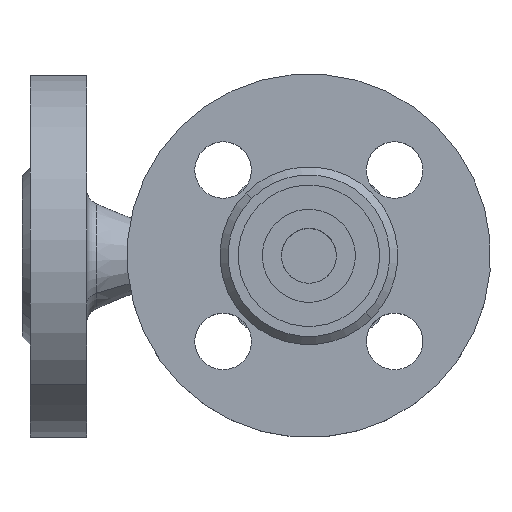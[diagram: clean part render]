
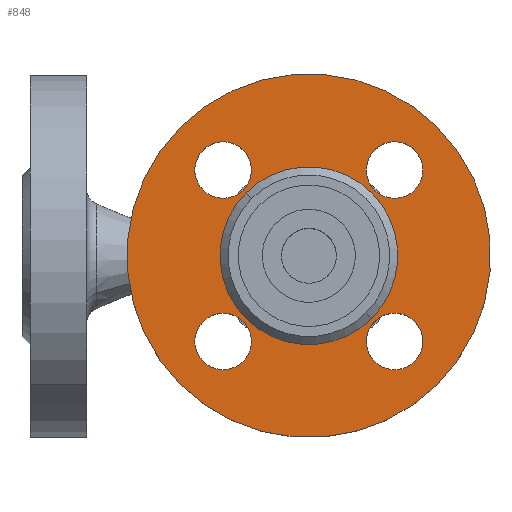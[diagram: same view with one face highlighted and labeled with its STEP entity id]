
A CAD part, top view. The second image highlights one B-rep face of the part: STEP entity #848.
In plain terms, the highlighted planar face has unit normal (0, 0, 1) as drawn and (0, -1, 0) by its records, which use the part's own axes.
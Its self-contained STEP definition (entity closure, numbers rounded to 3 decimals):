
#96 = ORIENTED_EDGE ( 'NONE', *, *, #13421, .T. ) ;
#605 = EDGE_LOOP ( 'NONE', ( #96, #12905 ) ) ;
#848 = ADVANCED_FACE ( 'NONE', ( #7817, #7822, #7823, #7824, #7825, #7826 ), #7827, .F. ) ;
#968 = CARTESIAN_POINT ( 'NONE',  ( -22., 2., 0. ) ) ;
#2203 = VERTEX_POINT ( 'NONE', #9198 ) ;
#2419 = EDGE_CURVE ( 'NONE', #6025, #6239, #9314, .T. ) ;
#2754 = VERTEX_POINT ( 'NONE', #9503 ) ;
#2892 = CIRCLE ( 'NONE', #2893, 22. ) ;
#2893 = AXIS2_PLACEMENT_3D ( 'NONE', #2894, #2895, #2896 ) ;
#2894 = CARTESIAN_POINT ( 'NONE',  ( 0., 2., 0. ) ) ;
#2895 = DIRECTION ( 'NONE',  ( 0., 1., 0. ) ) ;
#2896 = DIRECTION ( 'NONE',  ( -1., 0., 0. ) ) ;
#2974 = VERTEX_POINT ( 'NONE', #10662 ) ;
#2991 = CIRCLE ( 'NONE', #2992, 7. ) ;
#2992 = AXIS2_PLACEMENT_3D ( 'NONE', #2995, #2996, #2997 ) ;
#2995 = CARTESIAN_POINT ( 'NONE',  ( -30., 2., 0. ) ) ;
#2996 = DIRECTION ( 'NONE',  ( 0., 1., 0. ) ) ;
#2997 = DIRECTION ( 'NONE',  ( -1., 0., 0. ) ) ;
#3151 = CARTESIAN_POINT ( 'NONE',  ( -37., 2., 0. ) ) ;
#3195 = EDGE_CURVE ( 'NONE', #2974, #2754, #10781, .T. ) ;
#3318 = CARTESIAN_POINT ( 'NONE',  ( -23., 2., 0. ) ) ;
#3357 = CARTESIAN_POINT ( 'NONE',  ( 22., 2., 0. ) ) ;
#3431 = CIRCLE ( 'NONE', #3432, 7. ) ;
#3432 = AXIS2_PLACEMENT_3D ( 'NONE', #3433, #3434, #3435 ) ;
#3433 = CARTESIAN_POINT ( 'NONE',  ( -30., 2., 0. ) ) ;
#3434 = DIRECTION ( 'NONE',  ( 0., 1., 0. ) ) ;
#3435 = DIRECTION ( 'NONE',  ( -1., 0., 0. ) ) ;
#4393 = EDGE_CURVE ( 'NONE', #10509, #4490, #2892, .T. ) ;
#4490 = VERTEX_POINT ( 'NONE', #3357 ) ;
#5687 = VERTEX_POINT ( 'NONE', #8411 ) ;
#5913 = VERTEX_POINT ( 'NONE', #8565 ) ;
#6025 = VERTEX_POINT ( 'NONE', #8674 ) ;
#6135 = EDGE_CURVE ( 'NONE', #5913, #5687, #8764, .T. ) ;
#6239 = VERTEX_POINT ( 'NONE', #8811 ) ;
#6463 = EDGE_CURVE ( 'NONE', #6239, #6025, #9142, .T. ) ;
#6868 = VERTEX_POINT ( 'NONE', #9388 ) ;
#6991 = EDGE_CURVE ( 'NONE', #6868, #2203, #9448, .T. ) ;
#7151 = EDGE_LOOP ( 'NONE', ( #11103, #10583 ) ) ;
#7392 = ORIENTED_EDGE ( 'NONE', *, *, #6991, .T. ) ;
#7817 = FACE_BOUND ( 'NONE', #605, .T. ) ;
#7822 = FACE_BOUND ( 'NONE', #12667, .T. ) ;
#7823 = FACE_BOUND ( 'NONE', #10402, .T. ) ;
#7824 = FACE_BOUND ( 'NONE', #8780, .T. ) ;
#7825 = FACE_OUTER_BOUND ( 'NONE', #7151, .T. ) ;
#7826 = FACE_BOUND ( 'NONE', #10351, .T. ) ;
#7827 = PLANE ( 'NONE',  #7828 ) ;
#7828 = AXIS2_PLACEMENT_3D ( 'NONE', #7829, #7830, #7831 ) ;
#7829 = CARTESIAN_POINT ( 'NONE',  ( 22., 2., 0. ) ) ;
#7830 = DIRECTION ( 'NONE',  ( 0., 1., 0. ) ) ;
#7831 = DIRECTION ( 'NONE',  ( -1., 0., 0. ) ) ;
#7915 = EDGE_CURVE ( 'NONE', #2203, #6868, #11146, .T. ) ;
#8277 = ORIENTED_EDGE ( 'NONE', *, *, #7915, .T. ) ;
#8411 = CARTESIAN_POINT ( 'NONE',  ( -7., 2., 30. ) ) ;
#8565 = CARTESIAN_POINT ( 'NONE',  ( 7., 2., 30. ) ) ;
#8636 = EDGE_CURVE ( 'NONE', #4490, #10509, #12232, .T. ) ;
#8674 = CARTESIAN_POINT ( 'NONE',  ( 45., 2., 0. ) ) ;
#8764 = CIRCLE ( 'NONE', #8765, 7. ) ;
#8765 = AXIS2_PLACEMENT_3D ( 'NONE', #8766, #8767, #8768 ) ;
#8766 = CARTESIAN_POINT ( 'NONE',  ( 0., 2., 30. ) ) ;
#8767 = DIRECTION ( 'NONE',  ( 0., 1., 0. ) ) ;
#8768 = DIRECTION ( 'NONE',  ( -1., 0., 0. ) ) ;
#8780 = EDGE_LOOP ( 'NONE', ( #8277, #7392 ) ) ;
#8811 = CARTESIAN_POINT ( 'NONE',  ( -45., 2., 0. ) ) ;
#9023 = ORIENTED_EDGE ( 'NONE', *, *, #6135, .T. ) ;
#9142 = CIRCLE ( 'NONE', #9143, 45. ) ;
#9143 = AXIS2_PLACEMENT_3D ( 'NONE', #9144, #9145, #9146 ) ;
#9144 = CARTESIAN_POINT ( 'NONE',  ( 0., 2., 0. ) ) ;
#9145 = DIRECTION ( 'NONE',  ( 0., 1., 0. ) ) ;
#9146 = DIRECTION ( 'NONE',  ( -1., 0., 0. ) ) ;
#9198 = CARTESIAN_POINT ( 'NONE',  ( 23., 2., 0. ) ) ;
#9314 = CIRCLE ( 'NONE', #9315, 45. ) ;
#9315 = AXIS2_PLACEMENT_3D ( 'NONE', #9316, #9317, #9318 ) ;
#9316 = CARTESIAN_POINT ( 'NONE',  ( 0., 2., 0. ) ) ;
#9317 = DIRECTION ( 'NONE',  ( 0., 1., 0. ) ) ;
#9318 = DIRECTION ( 'NONE',  ( -1., 0., 0. ) ) ;
#9331 = ORIENTED_EDGE ( 'NONE', *, *, #8636, .T. ) ;
#9388 = CARTESIAN_POINT ( 'NONE',  ( 37., 2., 0. ) ) ;
#9448 = CIRCLE ( 'NONE', #9449, 7. ) ;
#9449 = AXIS2_PLACEMENT_3D ( 'NONE', #9450, #9451, #9452 ) ;
#9450 = CARTESIAN_POINT ( 'NONE',  ( 30., 2., 0. ) ) ;
#9451 = DIRECTION ( 'NONE',  ( 0., 1., 0. ) ) ;
#9452 = DIRECTION ( 'NONE',  ( -1., 0., 0. ) ) ;
#9503 = CARTESIAN_POINT ( 'NONE',  ( -7., 2., -30. ) ) ;
#9532 = EDGE_CURVE ( 'NONE', #5687, #5913, #13137, .T. ) ;
#9836 = ORIENTED_EDGE ( 'NONE', *, *, #4393, .T. ) ;
#9890 = ORIENTED_EDGE ( 'NONE', *, *, #9532, .T. ) ;
#10351 = EDGE_LOOP ( 'NONE', ( #9836, #9331 ) ) ;
#10402 = EDGE_LOOP ( 'NONE', ( #9890, #9023 ) ) ;
#10509 = VERTEX_POINT ( 'NONE', #968 ) ;
#10583 = ORIENTED_EDGE ( 'NONE', *, *, #2419, .F. ) ;
#10640 = ORIENTED_EDGE ( 'NONE', *, *, #12552, .T. ) ;
#10662 = CARTESIAN_POINT ( 'NONE',  ( 7., 2., -30. ) ) ;
#10781 = CIRCLE ( 'NONE', #10782, 7. ) ;
#10782 = AXIS2_PLACEMENT_3D ( 'NONE', #10783, #10784, #10785 ) ;
#10783 = CARTESIAN_POINT ( 'NONE',  ( 0., 2., -30. ) ) ;
#10784 = DIRECTION ( 'NONE',  ( 0., 1., 0. ) ) ;
#10785 = DIRECTION ( 'NONE',  ( -1., 0., 0. ) ) ;
#11103 = ORIENTED_EDGE ( 'NONE', *, *, #6463, .F. ) ;
#11146 = CIRCLE ( 'NONE', #11147, 7. ) ;
#11147 = AXIS2_PLACEMENT_3D ( 'NONE', #11148, #11149, #11150 ) ;
#11148 = CARTESIAN_POINT ( 'NONE',  ( 30., 2., 0. ) ) ;
#11149 = DIRECTION ( 'NONE',  ( 0., 1., 0. ) ) ;
#11150 = DIRECTION ( 'NONE',  ( -1., 0., 0. ) ) ;
#11787 = EDGE_CURVE ( 'NONE', #12113, #12338, #2991, .T. ) ;
#12113 = VERTEX_POINT ( 'NONE', #3151 ) ;
#12151 = ORIENTED_EDGE ( 'NONE', *, *, #11787, .T. ) ;
#12232 = CIRCLE ( 'NONE', #12233, 22. ) ;
#12233 = AXIS2_PLACEMENT_3D ( 'NONE', #12234, #12235, #12236 ) ;
#12234 = CARTESIAN_POINT ( 'NONE',  ( 0., 2., 0. ) ) ;
#12235 = DIRECTION ( 'NONE',  ( 0., 1., 0. ) ) ;
#12236 = DIRECTION ( 'NONE',  ( -1., 0., 0. ) ) ;
#12338 = VERTEX_POINT ( 'NONE', #3318 ) ;
#12434 = CIRCLE ( 'NONE', #12435, 7. ) ;
#12435 = AXIS2_PLACEMENT_3D ( 'NONE', #12436, #12437, #12438 ) ;
#12436 = CARTESIAN_POINT ( 'NONE',  ( 0., 2., -30. ) ) ;
#12437 = DIRECTION ( 'NONE',  ( 0., 1., 0. ) ) ;
#12438 = DIRECTION ( 'NONE',  ( -1., 0., 0. ) ) ;
#12552 = EDGE_CURVE ( 'NONE', #12338, #12113, #3431, .T. ) ;
#12667 = EDGE_LOOP ( 'NONE', ( #12151, #10640 ) ) ;
#12905 = ORIENTED_EDGE ( 'NONE', *, *, #3195, .T. ) ;
#13137 = CIRCLE ( 'NONE', #13138, 7. ) ;
#13138 = AXIS2_PLACEMENT_3D ( 'NONE', #13144, #13145, #13146 ) ;
#13144 = CARTESIAN_POINT ( 'NONE',  ( 0., 2., 30. ) ) ;
#13145 = DIRECTION ( 'NONE',  ( 0., 1., 0. ) ) ;
#13146 = DIRECTION ( 'NONE',  ( -1., 0., 0. ) ) ;
#13421 = EDGE_CURVE ( 'NONE', #2754, #2974, #12434, .T. ) ;
